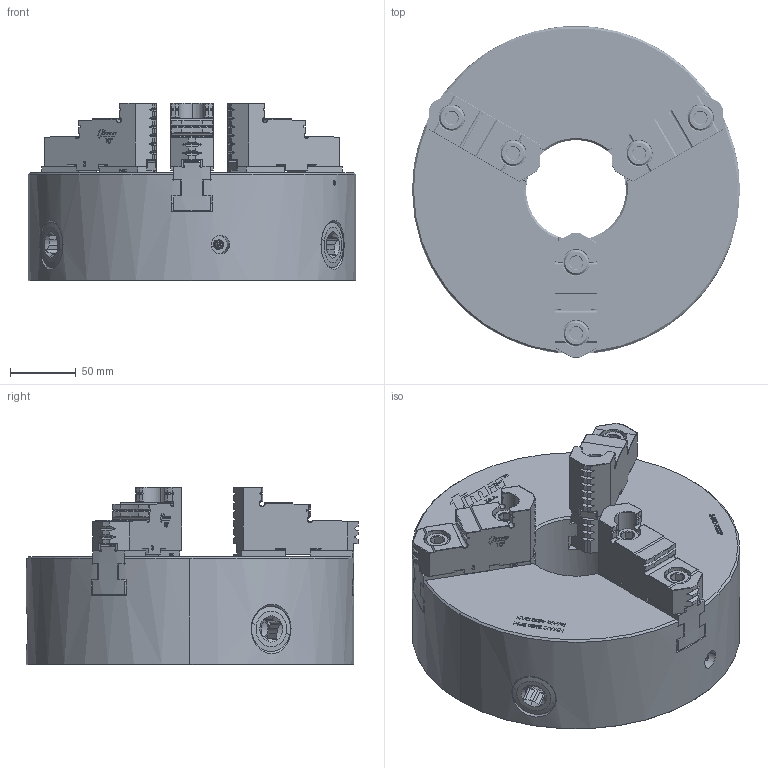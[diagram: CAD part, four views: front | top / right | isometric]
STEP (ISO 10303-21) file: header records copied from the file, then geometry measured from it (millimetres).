
FILE_DESCRIPTION (( 'STEP AP214' ), '1' );
FILE_NAME ('3-820-1000P REV A.STEP', '2024-10-25T17:32:26', ( '' ), ( '' ), 'SwSTEP 2.0', 'SolidWorks 2020', '' );
FILE_SCHEMA (( 'AUTOMOTIVE_DESIGN' ));
Length unit declared in the file: millimetre
Products named in the file (19): 3-886-310P_FOR-WEBSITE; 3-885-310P_JAW2-FOR-WEBSITE; 3-885-310P_JAW3-FOR-WEBSITE; 3-891-310P_3-891-310P-JAW2-LASERMARKING; M8x1.25X16 SHCS_M8x1.25X16 SHCS; 3-887-310P_FOR-WEBSITE; 3-891-310P_3-891-310P-JAW3-LASERMARKING; 0.500-13 X1.00 SHCS_0.500-13 X1.00 SHCS; 3-820-1000P REV A; 3-885-310P_JAW1-FOR-WEBSITE; M6x1.0 GREASE FITTING_M6x1.0 GREASE FITTING; C-CK10-COVER_C-CK10-COVER; 3-888-910P_3-888-910P; 3-883-310P_TOP JAW1; C-CK10-BDY3JFM_BODY-820; 3-883-310P_TOP JAW3; 0.500-13 X1.50 SHCS_0.500-13 X1.50 SHCS; 3-883-310P_TOP JAW2; 3-891-310P_3-891-310P-JAW1-LASERMARKING
Assembly tree (28 placements, depth 3):
  3-820-1000P REV A
    C-CK10-BDY3JFM_BODY-820
    3-887-310P_FOR-WEBSITE
    3-886-310P_FOR-WEBSITE  x3
    3-888-910P_3-888-910P  x3
    C-CK10-COVER_C-CK10-COVER
    3-891-310P_3-891-310P-JAW1-LASERMARKING
      3-885-310P_JAW1-FOR-WEBSITE
      3-883-310P_TOP JAW1
      0.500-13 X1.50 SHCS_0.500-13 X1.50 SHCS
      0.500-13 X1.00 SHCS_0.500-13 X1.00 SHCS
    3-891-310P_3-891-310P-JAW2-LASERMARKING
      3-885-310P_JAW2-FOR-WEBSITE
      3-883-310P_TOP JAW2
      0.500-13 X1.50 SHCS_0.500-13 X1.50 SHCS
      0.500-13 X1.00 SHCS_0.500-13 X1.00 SHCS
    3-891-310P_3-891-310P-JAW3-LASERMARKING
      3-885-310P_JAW3-FOR-WEBSITE
      3-883-310P_TOP JAW3
      0.500-13 X1.50 SHCS_0.500-13 X1.50 SHCS
      0.500-13 X1.00 SHCS_0.500-13 X1.00 SHCS
    M8x1.25X16 SHCS_M8x1.25X16 SHCS  x3
    M6x1.0 GREASE FITTING_M6x1.0 GREASE FITTING
Bounding box: 250 x 253.1 x 135.31 mm (x, y, z)
Volume: 3349296.2 mm3; surface area: 532493.9 mm2
Topology: 25 solids, 25 shells, 3409 faces, 9034 edges, 5791 vertices
Faces by surface type: plane 1364, cylinder 883, cone 608, bspline 459, torus 85, sphere 10
Entity records: 124985 total; most frequent: CARTESIAN_POINT 60154, ORIENTED_EDGE 14500, DIRECTION 11175, EDGE_CURVE 7250, VERTEX_POINT 4685, VECTOR 3915, LINE 3915, AXIS2_PLACEMENT_3D 3630
